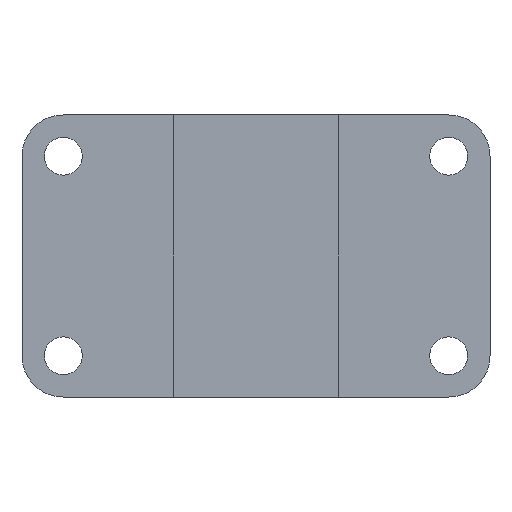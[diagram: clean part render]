
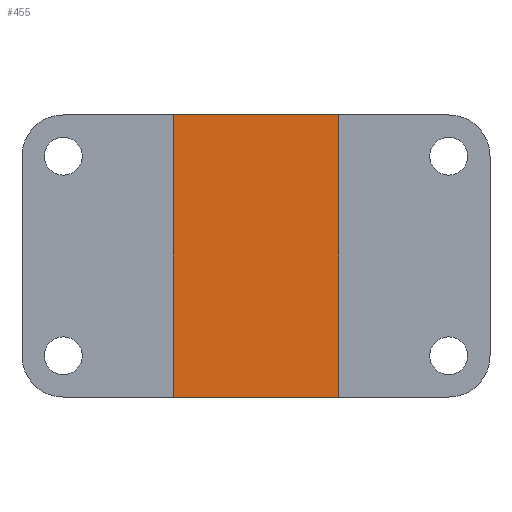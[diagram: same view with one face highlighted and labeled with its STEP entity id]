
A CAD part, front view. The second image highlights one B-rep face of the part: STEP entity #455.
In plain terms, the highlighted planar face has unit normal (0, -1, 0).
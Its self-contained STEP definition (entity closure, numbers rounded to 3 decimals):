
#29=PLANE('',#517);
#51=FACE_OUTER_BOUND('',#79,.T.);
#79=EDGE_LOOP('',(#379,#380,#381,#382));
#116=LINE('',#753,#160);
#117=LINE('',#756,#161);
#118=LINE('',#758,#162);
#119=LINE('',#759,#163);
#160=VECTOR('',#622,10.);
#161=VECTOR('',#625,10.);
#162=VECTOR('',#626,10.);
#163=VECTOR('',#627,10.);
#231=VERTEX_POINT('',#749);
#232=VERTEX_POINT('',#751);
#233=VERTEX_POINT('',#755);
#234=VERTEX_POINT('',#757);
#288=EDGE_CURVE('',#231,#232,#116,.T.);
#289=EDGE_CURVE('',#231,#233,#117,.T.);
#290=EDGE_CURVE('',#234,#232,#118,.T.);
#291=EDGE_CURVE('',#233,#234,#119,.T.);
#379=ORIENTED_EDGE('',*,*,#289,.F.);
#380=ORIENTED_EDGE('',*,*,#288,.T.);
#381=ORIENTED_EDGE('',*,*,#290,.F.);
#382=ORIENTED_EDGE('',*,*,#291,.F.);
#455=ADVANCED_FACE('',(#51),#29,.T.);
#517=AXIS2_PLACEMENT_3D('',#754,#623,#624);
#622=DIRECTION('',(0.,0.,-1.));
#623=DIRECTION('center_axis',(0.,-1.,0.));
#624=DIRECTION('ref_axis',(-1.,0.,0.));
#625=DIRECTION('',(1.,0.,0.));
#626=DIRECTION('',(-1.,0.,0.));
#627=DIRECTION('',(0.,0.,-1.));
#749=CARTESIAN_POINT('',(44.,4.,0.));
#751=CARTESIAN_POINT('',(44.,4.,-82.));
#753=CARTESIAN_POINT('',(44.,4.,0.));
#754=CARTESIAN_POINT('Origin',(92.,4.,0.));
#755=CARTESIAN_POINT('',(92.,4.,0.));
#756=CARTESIAN_POINT('',(44.,4.,0.));
#757=CARTESIAN_POINT('',(92.,4.,-82.));
#758=CARTESIAN_POINT('',(44.,4.,-82.));
#759=CARTESIAN_POINT('',(92.,4.,0.));
